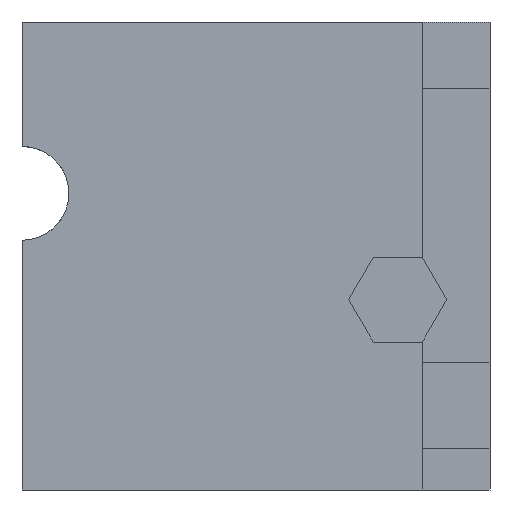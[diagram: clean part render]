
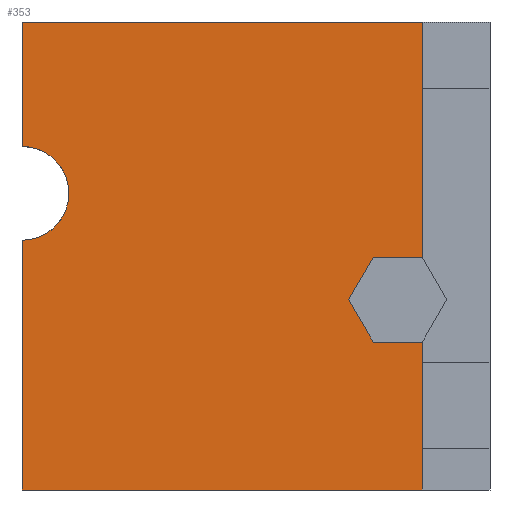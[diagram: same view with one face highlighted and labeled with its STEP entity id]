
A CAD part, front view. The second image highlights one B-rep face of the part: STEP entity #353.
In plain terms, the highlighted planar face has unit normal (0, -1, 0).
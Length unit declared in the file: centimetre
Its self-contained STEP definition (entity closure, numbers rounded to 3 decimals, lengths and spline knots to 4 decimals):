
#19 = VECTOR ( 'NONE', #1161, 100. ) ;
#22 = EDGE_CURVE ( 'NONE', #98, #213, #1003, .T. ) ;
#34 = DIRECTION ( 'NONE',  ( 0., 0., 1. ) ) ;
#35 = VERTEX_POINT ( 'NONE', #503 ) ;
#45 = EDGE_CURVE ( 'NONE', #263, #98, #912, .T. ) ;
#88 = EDGE_CURVE ( 'NONE', #1293, #35, #810, .T. ) ;
#89 = CARTESIAN_POINT ( 'NONE',  ( 750.5643, 0., 497.2678 ) ) ;
#98 = VERTEX_POINT ( 'NONE', #1188 ) ;
#100 = VECTOR ( 'NONE', #980, 100. ) ;
#104 = EDGE_CURVE ( 'NONE', #1136, #349, #136, .T. ) ;
#126 = EDGE_CURVE ( 'NONE', #35, #1164, #416, .T. ) ;
#136 = LINE ( 'NONE', #1115, #544 ) ;
#143 = EDGE_CURVE ( 'NONE', #1164, #538, #153, .T. ) ;
#145 = CARTESIAN_POINT ( 'NONE',  ( 855.4698, 0., 0. ) ) ;
#147 = ORIENTED_EDGE ( 'NONE', *, *, #143, .T. ) ;
#153 = LINE ( 'NONE', #1144, #19 ) ;
#167 = ORIENTED_EDGE ( 'NONE', *, *, #824, .T. ) ;
#202 = DIRECTION ( 'NONE',  ( 0., 0., -1. ) ) ;
#213 = VERTEX_POINT ( 'NONE', #817 ) ;
#246 = VECTOR ( 'NONE', #779, 100. ) ;
#252 = EDGE_LOOP ( 'NONE', ( #843, #931, #966, #316, #907, #755, #167, #972, #1022, #336, #147 ) ) ;
#262 = DIRECTION ( 'NONE',  ( 1., 0., 0. ) ) ;
#263 = VERTEX_POINT ( 'NONE', #765 ) ;
#268 = LINE ( 'NONE', #1186, #100 ) ;
#284 = CARTESIAN_POINT ( 'NONE',  ( 697.6554, 0., 407.2071 ) ) ;
#298 = EDGE_CURVE ( 'NONE', #213, #1136, #978, .T. ) ;
#307 = DIRECTION ( 'NONE',  ( -1., 0., 0. ) ) ;
#316 = ORIENTED_EDGE ( 'NONE', *, *, #298, .F. ) ;
#336 = ORIENTED_EDGE ( 'NONE', *, *, #126, .T. ) ;
#349 = VERTEX_POINT ( 'NONE', #1276 ) ;
#352 = VECTOR ( 'NONE', #918, 100. ) ;
#353 = ADVANCED_FACE ( 'NONE', ( #373 ), #1294, .F. ) ;
#360 = CARTESIAN_POINT ( 'NONE',  ( 0., 0., 0. ) ) ;
#373 = FACE_OUTER_BOUND ( 'NONE', #252, .T. ) ;
#409 = DIRECTION ( 'NONE',  ( 0., 0., 1. ) ) ;
#416 = CIRCLE ( 'NONE', #1280, 100.2304 ) ;
#445 = DIRECTION ( 'NONE',  ( 1., 0., 0. ) ) ;
#503 = CARTESIAN_POINT ( 'NONE',  ( 0., 0., 734.1205 ) ) ;
#509 = AXIS2_PLACEMENT_3D ( 'NONE', #582, #985, #892 ) ;
#511 = VECTOR ( 'NONE', #409, 100. ) ;
#519 = VERTEX_POINT ( 'NONE', #145 ) ;
#538 = VERTEX_POINT ( 'NONE', #758 ) ;
#544 = VECTOR ( 'NONE', #445, 100. ) ;
#548 = CARTESIAN_POINT ( 'NONE',  ( 750.5643, 0., 316.0929 ) ) ;
#556 = LINE ( 'NONE', #1010, #511 ) ;
#566 = VERTEX_POINT ( 'NONE', #964 ) ;
#582 = CARTESIAN_POINT ( 'NONE',  ( 0., 0., 1000. ) ) ;
#585 = VECTOR ( 'NONE', #202, 100. ) ;
#636 = CARTESIAN_POINT ( 'NONE',  ( 0., 0., 1000. ) ) ;
#719 = DIRECTION ( 'NONE',  ( 0., 1., 0. ) ) ;
#745 = LINE ( 'NONE', #636, #1202 ) ;
#755 = ORIENTED_EDGE ( 'NONE', *, *, #45, .F. ) ;
#758 = CARTESIAN_POINT ( 'NONE',  ( 0., 0., 0. ) ) ;
#765 = CARTESIAN_POINT ( 'NONE',  ( 855.4698, 0., 497.2678 ) ) ;
#779 = DIRECTION ( 'NONE',  ( 0.502, 0., -0.865 ) ) ;
#804 = VECTOR ( 'NONE', #1255, 100. ) ;
#810 = LINE ( 'NONE', #1110, #585 ) ;
#817 = CARTESIAN_POINT ( 'NONE',  ( 697.6554, 0., 407.2071 ) ) ;
#824 = EDGE_CURVE ( 'NONE', #263, #566, #556, .T. ) ;
#843 = ORIENTED_EDGE ( 'NONE', *, *, #1087, .T. ) ;
#849 = EDGE_CURVE ( 'NONE', #519, #349, #268, .T. ) ;
#892 = DIRECTION ( 'NONE',  ( 0., 0., 1. ) ) ;
#907 = ORIENTED_EDGE ( 'NONE', *, *, #22, .F. ) ;
#912 = LINE ( 'NONE', #1305, #1050 ) ;
#918 = DIRECTION ( 'NONE',  ( -0.507, 0., -0.862 ) ) ;
#931 = ORIENTED_EDGE ( 'NONE', *, *, #849, .T. ) ;
#964 = CARTESIAN_POINT ( 'NONE',  ( 855.4698, 0., 1000. ) ) ;
#966 = ORIENTED_EDGE ( 'NONE', *, *, #104, .F. ) ;
#967 = CARTESIAN_POINT ( 'NONE',  ( 0., 0., 533.6596 ) ) ;
#972 = ORIENTED_EDGE ( 'NONE', *, *, #1082, .F. ) ;
#978 = LINE ( 'NONE', #284, #246 ) ;
#980 = DIRECTION ( 'NONE',  ( 0., 0., 1. ) ) ;
#985 = DIRECTION ( 'NONE',  ( 0., 1., 0. ) ) ;
#1003 = LINE ( 'NONE', #89, #352 ) ;
#1010 = CARTESIAN_POINT ( 'NONE',  ( 855.4698, 0., 0. ) ) ;
#1022 = ORIENTED_EDGE ( 'NONE', *, *, #88, .T. ) ;
#1050 = VECTOR ( 'NONE', #307, 100. ) ;
#1065 = CARTESIAN_POINT ( 'NONE',  ( 0., 0., 1000. ) ) ;
#1082 = EDGE_CURVE ( 'NONE', #1293, #566, #745, .T. ) ;
#1087 = EDGE_CURVE ( 'NONE', #538, #519, #1232, .T. ) ;
#1110 = CARTESIAN_POINT ( 'NONE',  ( 0., 0., 1000. ) ) ;
#1115 = CARTESIAN_POINT ( 'NONE',  ( 750.5643, 0., 316.0929 ) ) ;
#1136 = VERTEX_POINT ( 'NONE', #548 ) ;
#1144 = CARTESIAN_POINT ( 'NONE',  ( 0., 0., 1000. ) ) ;
#1161 = DIRECTION ( 'NONE',  ( 0., 0., -1. ) ) ;
#1164 = VERTEX_POINT ( 'NONE', #967 ) ;
#1186 = CARTESIAN_POINT ( 'NONE',  ( 855.4698, 0., 0. ) ) ;
#1188 = CARTESIAN_POINT ( 'NONE',  ( 750.5643, 0., 497.2678 ) ) ;
#1202 = VECTOR ( 'NONE', #262, 100. ) ;
#1232 = LINE ( 'NONE', #360, #804 ) ;
#1255 = DIRECTION ( 'NONE',  ( 1., 0., 0. ) ) ;
#1276 = CARTESIAN_POINT ( 'NONE',  ( 855.4698, 0., 316.0929 ) ) ;
#1280 = AXIS2_PLACEMENT_3D ( 'NONE', #1319, #719, #34 ) ;
#1293 = VERTEX_POINT ( 'NONE', #1065 ) ;
#1294 = PLANE ( 'NONE',  #509 ) ;
#1305 = CARTESIAN_POINT ( 'NONE',  ( 855.4698, 0., 497.2678 ) ) ;
#1319 = CARTESIAN_POINT ( 'NONE',  ( 0., 0., 633.89 ) ) ;
